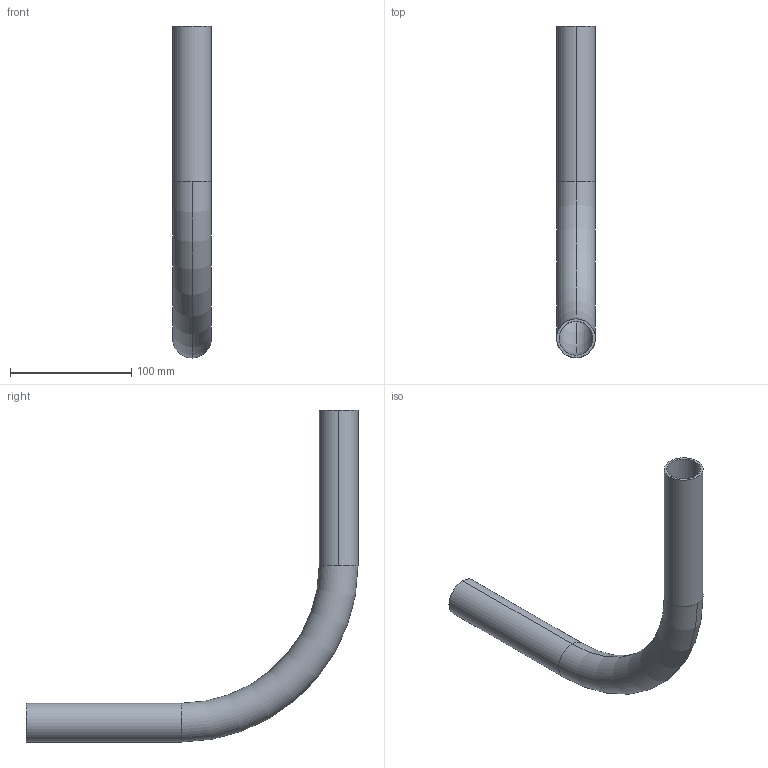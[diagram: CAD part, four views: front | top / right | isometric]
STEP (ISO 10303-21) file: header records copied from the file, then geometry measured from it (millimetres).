
FILE_DESCRIPTION (( 'STEP AP214' ), '1' );
FILE_NAME ('KP_3-32FC.STEP', '2014-01-20T10:46:40', ( 'robinj' ), ( 'Microsoft' ), 'SwSTEP 2.0', 'SolidWorks 2014', '' );
FILE_SCHEMA (( 'AUTOMOTIVE_DESIGN' ));
Length unit declared in the file: millimetre
Products named in the file (1): KP_3-32FC
Bounding box: 32 x 274 x 274 mm (x, y, z)
Volume: 86746.3 mm3; surface area: 87123.3 mm2
Topology: 1 solids, 1 shells, 14 faces, 32 edges, 20 vertices
Faces by surface type: cylinder 8, torus 4, plane 2
Entity records: 446 total; most frequent: DIRECTION 86, CARTESIAN_POINT 67, ORIENTED_EDGE 64, AXIS2_PLACEMENT_3D 39, EDGE_CURVE 32, CIRCLE 24, VERTEX_POINT 20, EDGE_LOOP 16
